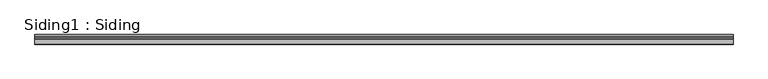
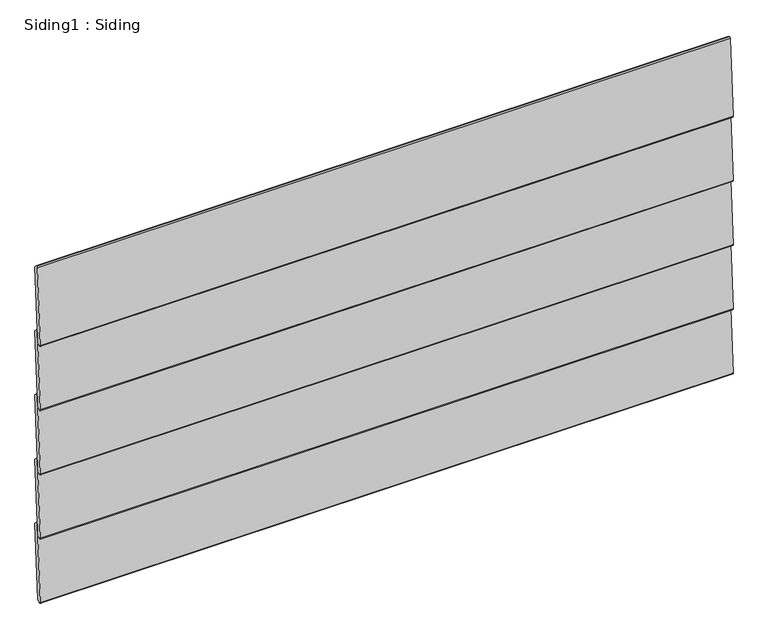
"""IFC4 building model written with IfcOpenShell, lengths in millimetres: proxy geometry, Siding1 : Siding."""

from ifc_helpers import new_model, si_unit, point, frame, frame_2d, origin, place, context, project, spatial, polyline, circle_curve, trimmed, segment, composite_curve, outline, extrude, source, transform, mapped, element, save


def siding1_siding_c6f08992(model_context):
    return source(origin(), model_context, "Body", "SweptSolid", [
        extrude(outline(composite_curve([segment(trimmed(circle_curve(frame_2d((33663.6718498, 613.6895863)), 2.1075694), [point((33661.5781282, 613.9307891))], [point((33663.7040621, 615.7969095))], False, "CARTESIAN"), True, "CONTINUOUS"), segment(polyline([(33663.7040621, 615.7969095), (33665.7000892, 615.6670028), (33669.43233, 611.4151351), (33660.3182392, 471.3764062), (33656.0663715, 467.6441654), (33654.0703444, 467.7740721)]), True, "CONTINUOUS"), segment(trimmed(circle_curve(frame_2d((33654.3140531, 469.8699934)), 2.1100426), [point((33654.0703444, 467.7740721))], [point((33652.204224, 469.900006))], False, "CARTESIAN"), True, "CONTINUOUS"), segment(polyline([(33652.204224, 469.900006), (33661.5781282, 613.9307891)]), True, "CONTINUOUS")], self_intersect=False)), frame((-2662.0179718, 0.0, 0.0), z_axis=(1.0, 0.0, 0.0), x_axis=(0.0, 1.0, 0.0)), (0.0, 0.0, 1.0), 1257.3),
        extrude(outline(composite_curve([segment(trimmed(circle_curve(frame_2d((33663.6718498, 490.4934983)), 2.1075694), [point((33661.5781282, 490.7347011))], [point((33663.7040621, 492.6008215))], False, "CARTESIAN"), True, "CONTINUOUS"), segment(polyline([(33663.7040621, 492.6008215), (33665.7000892, 492.4709148), (33669.43233, 488.2190471), (33660.3182392, 348.1803182), (33656.0663715, 344.4480774), (33654.0703444, 344.5779842)]), True, "CONTINUOUS"), segment(trimmed(circle_curve(frame_2d((33654.3140531, 346.6739054)), 2.1100426), [point((33654.0703444, 344.5779842))], [point((33652.204224, 346.703918))], False, "CARTESIAN"), True, "CONTINUOUS"), segment(polyline([(33652.204224, 346.703918), (33661.5781282, 490.7347011)]), True, "CONTINUOUS")], self_intersect=False)), frame((-2662.0179718, 0.0, 0.0), z_axis=(1.0, 0.0, 0.0), x_axis=(0.0, 1.0, 0.0)), (0.0, 0.0, 1.0), 1257.3),
        extrude(outline(composite_curve([segment(trimmed(circle_curve(frame_2d((33663.6718498, 367.2974103)), 2.1075694), [point((33661.5781282, 367.5386131))], [point((33663.7040621, 369.4047335))], False, "CARTESIAN"), True, "CONTINUOUS"), segment(polyline([(33663.7040621, 369.4047335), (33665.7000892, 369.2748268), (33669.43233, 365.0229591), (33660.3182392, 224.9842302), (33656.0663715, 221.2519894), (33654.0703444, 221.3818962)]), True, "CONTINUOUS"), segment(trimmed(circle_curve(frame_2d((33654.3140531, 223.4778174)), 2.1100426), [point((33654.0703444, 221.3818962))], [point((33652.204224, 223.50783))], False, "CARTESIAN"), True, "CONTINUOUS"), segment(polyline([(33652.204224, 223.50783), (33661.5781282, 367.5386131)]), True, "CONTINUOUS")], self_intersect=False)), frame((-2662.0179718, 0.0, 0.0), z_axis=(1.0, 0.0, 0.0), x_axis=(0.0, 1.0, 0.0)), (0.0, 0.0, 1.0), 1257.3),
        extrude(outline(composite_curve([segment(trimmed(circle_curve(frame_2d((33663.6718498, 244.1013223)), 2.1075694), [point((33661.5781282, 244.3425251))], [point((33663.7040621, 246.2086455))], False, "CARTESIAN"), True, "CONTINUOUS"), segment(polyline([(33663.7040621, 246.2086455), (33665.7000892, 246.0787388), (33669.43233, 241.8268711), (33660.3182392, 101.7881423), (33656.0663715, 98.0559014), (33654.0703444, 98.1858082)]), True, "CONTINUOUS"), segment(trimmed(circle_curve(frame_2d((33654.3140531, 100.2817294)), 2.1100426), [point((33654.0703444, 98.1858082))], [point((33652.204224, 100.311742))], False, "CARTESIAN"), True, "CONTINUOUS"), segment(polyline([(33652.204224, 100.311742), (33661.5781282, 244.3425251)]), True, "CONTINUOUS")], self_intersect=False)), frame((-2662.0179718, 0.0, 0.0), z_axis=(1.0, 0.0, 0.0), x_axis=(0.0, 1.0, 0.0)), (0.0, 0.0, 1.0), 1257.3),
        extrude(outline(composite_curve([segment(trimmed(circle_curve(frame_2d((33663.6718498, 120.9052343)), 2.1075694), [point((33661.5781282, 121.1464371))], [point((33663.7040621, 123.0125575))], False, "CARTESIAN"), True, "CONTINUOUS"), segment(polyline([(33663.7040621, 123.0125575), (33665.7000892, 122.8826508), (33669.43233, 118.6307831), (33660.3182392, -21.4079457), (33656.0663715, -25.1401866), (33654.0703444, -25.0102798)]), True, "CONTINUOUS"), segment(trimmed(circle_curve(frame_2d((33654.3140531, -22.9143586)), 2.1100426), [point((33654.0703444, -25.0102798))], [point((33652.204224, -22.884346))], False, "CARTESIAN"), True, "CONTINUOUS"), segment(polyline([(33652.204224, -22.884346), (33661.5781282, 121.1464371)]), True, "CONTINUOUS")], self_intersect=False)), frame((-2662.0179718, 0.0, 0.0), z_axis=(1.0, 0.0, 0.0), x_axis=(0.0, 1.0, 0.0)), (0.0, 0.0, 1.0), 1257.3),
    ])


if __name__ == "__main__":
    model = new_model("IFC4")
    model_context = context("Model", 3, world=origin())
    ifc_project = project(units=[si_unit("LENGTHUNIT", "METRE", prefix="MILLI")], contexts=[model_context])
    site = spatial("IfcSite", under=ifc_project)
    building = spatial("IfcBuilding", under=site)
    placement = place(None, origin())
    siding1_siding_shape = siding1_siding_c6f08992(model_context)
    element("IfcBuildingElementProxy", 1, Name="Siding1 : Siding", ObjectType="Siding1 : Siding", at=placement, inside=building, context=model_context, shape_type="MappedRepresentation", body=[
        mapped(siding1_siding_shape, transform((0.0, 0.0, 0.0), x_axis=(1.0, 0.0, 0.0), y_axis=(0.0, 1.0, 0.0), z_axis=(0.0, 0.0, 1.0))),
    ])
    save(model, "model.ifc")
